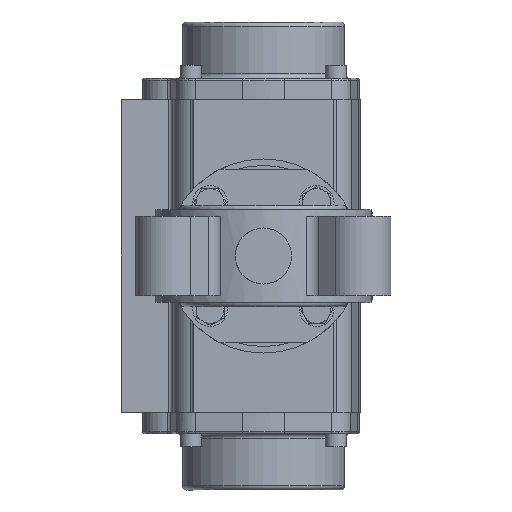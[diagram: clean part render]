
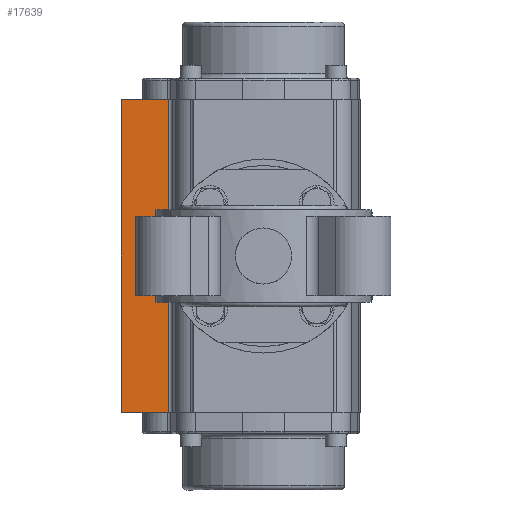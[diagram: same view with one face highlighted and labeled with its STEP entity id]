
A CAD part, front view. The second image highlights one B-rep face of the part: STEP entity #17639.
In plain terms, the highlighted planar face has unit normal (0, -1, 0).
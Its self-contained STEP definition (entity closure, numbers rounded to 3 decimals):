
#2631 = CARTESIAN_POINT ( 'NONE',  ( 72.45, -22., 66. ) ) ;
#2894 = CARTESIAN_POINT ( 'NONE',  ( 72.45, -22., 66. ) ) ;
#2916 = ORIENTED_EDGE ( 'NONE', *, *, #11065, .T. ) ;
#4285 = LINE ( 'NONE', #2631, #12073 ) ;
#4784 = FACE_OUTER_BOUND ( 'NONE', #15694, .T. ) ;
#5430 = CARTESIAN_POINT ( 'NONE',  ( 72.45, -22., 44.111 ) ) ;
#6718 = LINE ( 'NONE', #21428, #21371 ) ;
#6995 = VECTOR ( 'NONE', #13202, 1000. ) ;
#7530 = EDGE_CURVE ( 'NONE', #11833, #18390, #6718, .T. ) ;
#10392 = DIRECTION ( 'NONE',  ( -1., 0., 0. ) ) ;
#10679 = DIRECTION ( 'NONE',  ( 0., 0., -1. ) ) ;
#11065 = EDGE_CURVE ( 'NONE', #18809, #17130, #22284, .T. ) ;
#11346 = EDGE_CURVE ( 'NONE', #11833, #18809, #4285, .T. ) ;
#11833 = VERTEX_POINT ( 'NONE', #21841 ) ;
#12073 = VECTOR ( 'NONE', #10392, 1000. ) ;
#13202 = DIRECTION ( 'NONE',  ( 1., 0., 0. ) ) ;
#14101 = DIRECTION ( 'NONE',  ( 0., 0., 1. ) ) ;
#14174 = CARTESIAN_POINT ( 'NONE',  ( 72.45, -22., 44.111 ) ) ;
#15298 = CARTESIAN_POINT ( 'NONE',  ( -72.45, -22., 66. ) ) ;
#15318 = VECTOR ( 'NONE', #10679, 1000. ) ;
#15680 = ORIENTED_EDGE ( 'NONE', *, *, #11346, .T. ) ;
#15694 = EDGE_LOOP ( 'NONE', ( #2916, #21564, #21300, #15680 ) ) ;
#15892 = PLANE ( 'NONE',  #19308 ) ;
#16534 = CARTESIAN_POINT ( 'NONE',  ( -72.45, -22., 66. ) ) ;
#17130 = VERTEX_POINT ( 'NONE', #19248 ) ;
#17248 = LINE ( 'NONE', #5430, #6995 ) ;
#17639 = ADVANCED_FACE ( 'NONE', ( #4784 ), #15892, .F. ) ;
#18390 = VERTEX_POINT ( 'NONE', #14174 ) ;
#18809 = VERTEX_POINT ( 'NONE', #15298 ) ;
#19248 = CARTESIAN_POINT ( 'NONE',  ( -72.45, -22., 44.111 ) ) ;
#19308 = AXIS2_PLACEMENT_3D ( 'NONE', #2894, #22123, #14101 ) ;
#21300 = ORIENTED_EDGE ( 'NONE', *, *, #7530, .F. ) ;
#21371 = VECTOR ( 'NONE', #22147, 1000. ) ;
#21428 = CARTESIAN_POINT ( 'NONE',  ( 72.45, -22., 66. ) ) ;
#21564 = ORIENTED_EDGE ( 'NONE', *, *, #24880, .T. ) ;
#21841 = CARTESIAN_POINT ( 'NONE',  ( 72.45, -22., 66. ) ) ;
#22123 = DIRECTION ( 'NONE',  ( 0., 1., 0. ) ) ;
#22147 = DIRECTION ( 'NONE',  ( 0., 0., -1. ) ) ;
#22284 = LINE ( 'NONE', #16534, #15318 ) ;
#24880 = EDGE_CURVE ( 'NONE', #17130, #18390, #17248, .T. ) ;
